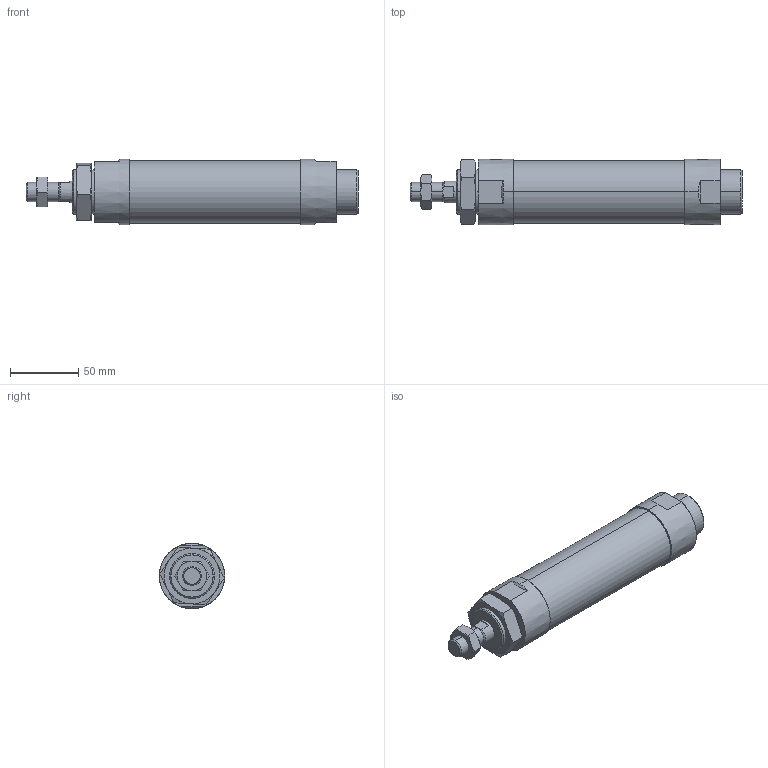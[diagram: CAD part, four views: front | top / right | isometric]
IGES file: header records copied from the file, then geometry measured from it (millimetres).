
Start section: SolidWorks IGES file using analytic representation for surfaces
Global section: file name: C:\Users\Toshiba\Desktop\J#2-40-75-N.IGS; native system: SolidWorks 2014; preprocessor: SolidWorks 2014; author: Toshiba; date: 160308.155619; units: millimetre
Bounding box: 244 x 48 x 48 mm (x, y, z)
Surface area: 41274.7 mm2 (no closed solid volume)
Topology: 0 solids, 0 shells, 94 faces, 1846 edges, 1842 vertices
Faces by surface type: bspline 57, revolution 37
